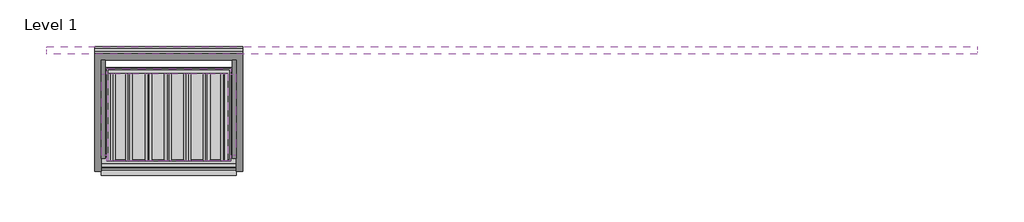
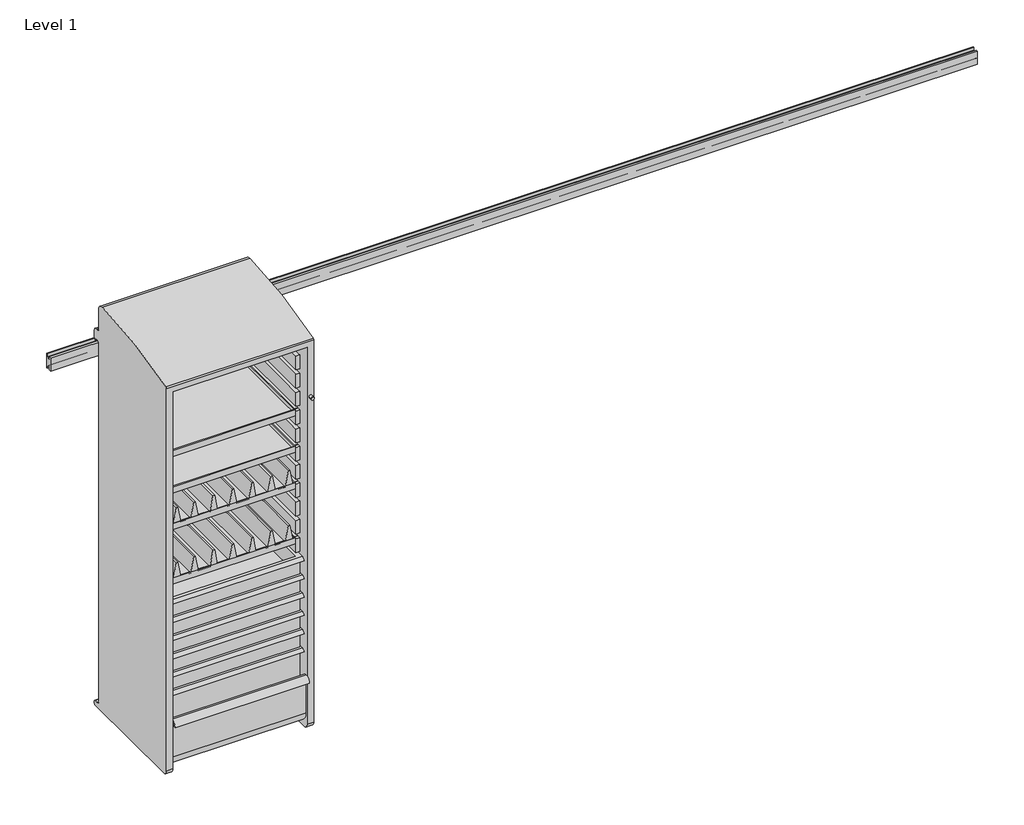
# One storey: 15 furniture elements.
"""IFC4 building model written with IfcOpenShell, lengths in millimetres."""

from ifc_helpers import new_model, si_unit, origin, place, context, project, spatial, transform, mapped, element, save
from components import furniture_ac9ddba1, furniture_597c964e, furniture_e54e6dd1, furniture_2a79b59b, furniture_6e313942, furniture_9b68d01d, furniture_820d7327, a_3_05a797c7, a_3_65d9b637, a_3_f00946d5, a_3_ebba6047, a_3_03b68bd4, b_6_b5d62f69, b_6_de3e8c4b, standard_144w_a9847ba4

model = new_model("IFC4")

# Units and contexts
model_context = context("Model", 3, world=origin())
ifc_project = project(units=[si_unit("LENGTHUNIT", "METRE", prefix="MILLI")], contexts=[model_context])

# Site, building, storey
site = spatial("IfcSite", under=ifc_project)
building = spatial("IfcBuilding", under=site)
storey = spatial("IfcBuildingStorey", under=building, Name="Level 1", Elevation=0.0)

# Furniture
placement = place(None, origin())
furniture_shape = furniture_ac9ddba1(model_context)
element("IfcFurniture", 1, ObjectType="HermanMiller_CoStruc_CO561_LockerWithTambourDoor : 66\"H x 20\"D x 22\"W Wlock", at=placement, inside=storey, context=model_context, shape_type="MappedRepresentation", body=[
    mapped(furniture_shape, transform((480.0352288, -244.9335711, 0.0), x_axis=(1.0, 0.0, 0.0), y_axis=(0.0, 1.0, 0.0), z_axis=(0.0, 0.0, 1.0))),
])
furniture_2_shape = furniture_597c964e(model_context)
element("IfcFurniture", 2, ObjectType="HermanMiller_CoStruc_CO203_CTrayShelf : 14\"D x 20\"W", at=placement, inside=storey, context=model_context, shape_type="MappedRepresentation", body=[
    mapped(furniture_2_shape, transform((480.0911088, -268.0170911, 0.0), x_axis=(1.0, 0.0, 0.0), y_axis=(0.0, 1.0, 0.0), z_axis=(0.0, 0.0, 1.0))),
])
furniture_3_shape = furniture_e54e6dd1(model_context)
element("IfcFurniture", 3, ObjectType="HermanMiller_CoStruc_CO203_CTrayShelf : 14\"D x 20\"W", at=placement, inside=storey, context=model_context, shape_type="MappedRepresentation", body=[
    mapped(furniture_3_shape, transform((480.0911088, -268.0170911, 0.0), x_axis=(1.0, 0.0, 0.0), y_axis=(0.0, 1.0, 0.0), z_axis=(0.0, 0.0, 1.0))),
])
furniture_4_shape = furniture_2a79b59b(model_context)
element("IfcFurniture", 4, ObjectType="HermanMiller_CoStruc_CO203_CTrayShelf : 14\"D x 20\"W", at=placement, inside=storey, context=model_context, shape_type="MappedRepresentation", body=[
    mapped(furniture_4_shape, transform((480.0911088, -268.0170911, 0.0), x_axis=(1.0, 0.0, 0.0), y_axis=(0.0, 1.0, 0.0), z_axis=(0.0, 0.0, 1.0))),
])
furniture_5_shape = furniture_6e313942(model_context)
element("IfcFurniture", 5, ObjectType="HermanMiller_CoStruc_CO203_CTrayShelf : 14\"D x 20\"W", at=placement, inside=storey, context=model_context, shape_type="MappedRepresentation", body=[
    mapped(furniture_5_shape, transform((480.0911088, -268.0170911, 0.0), x_axis=(1.0, 0.0, 0.0), y_axis=(0.0, 1.0, 0.0), z_axis=(0.0, 0.0, 1.0))),
])
furniture_6_shape = furniture_9b68d01d(model_context)
element("IfcFurniture", 6, ObjectType="HermanMiller_CoStruc_CO242_Subdivider Vane : 2 5/8\"Hx13 3/4\"D x 18 1/2\"W", at=placement, inside=storey, context=model_context, shape_type="MappedRepresentation", body=[
    mapped(furniture_6_shape, transform((476.6201604, -277.1610911, 0.0), x_axis=(1.0, 0.0, 0.0), y_axis=(0.0, 1.0, 0.0), z_axis=(0.0, 0.0, 1.0))),
])
furniture_7_shape = furniture_820d7327(model_context)
element("IfcFurniture", 7, ObjectType="HermanMiller_CoStruc_CO242_Subdivider Vane : 2 5/8\"Hx13 3/4\"D x 18 1/2\"W", at=placement, inside=storey, context=model_context, shape_type="MappedRepresentation", body=[
    mapped(furniture_7_shape, transform((476.6201604, -277.1610911, 0.0), x_axis=(1.0, 0.0, 0.0), y_axis=(0.0, 1.0, 0.0), z_axis=(0.0, 0.0, 1.0))),
])
a_3_shape = a_3_05a797c7(model_context)
element("IfcFurniture", 8, ObjectType="HermanMiller_CoStruc_CO207_Drawer : A - 3", at=placement, inside=storey, context=model_context, shape_type="MappedRepresentation", body=[
    mapped(a_3_shape, transform((480.0239453, -277.5167426, 0.0), x_axis=(1.0, 0.0, 0.0), y_axis=(0.0, 1.0, 0.0), z_axis=(0.0, 0.0, 1.0))),
])
a_3_2_shape = a_3_65d9b637(model_context)
element("IfcFurniture", 9, ObjectType="HermanMiller_CoStruc_CO207_Drawer : A - 3", at=placement, inside=storey, context=model_context, shape_type="MappedRepresentation", body=[
    mapped(a_3_2_shape, transform((480.0239453, -277.5167426, 0.0), x_axis=(1.0, 0.0, 0.0), y_axis=(0.0, 1.0, 0.0), z_axis=(0.0, 0.0, 1.0))),
])
a_3_3_shape = a_3_f00946d5(model_context)
element("IfcFurniture", 10, ObjectType="HermanMiller_CoStruc_CO207_Drawer : A - 3", at=placement, inside=storey, context=model_context, shape_type="MappedRepresentation", body=[
    mapped(a_3_3_shape, transform((480.0239453, -277.5167426, 0.0), x_axis=(1.0, 0.0, 0.0), y_axis=(0.0, 1.0, 0.0), z_axis=(0.0, 0.0, 1.0))),
])
a_3_4_shape = a_3_ebba6047(model_context)
element("IfcFurniture", 11, ObjectType="HermanMiller_CoStruc_CO207_Drawer : A - 3", at=placement, inside=storey, context=model_context, shape_type="MappedRepresentation", body=[
    mapped(a_3_4_shape, transform((480.0239453, -277.5167426, 0.0), x_axis=(1.0, 0.0, 0.0), y_axis=(0.0, 1.0, 0.0), z_axis=(0.0, 0.0, 1.0))),
])
a_3_5_shape = a_3_03b68bd4(model_context)
element("IfcFurniture", 12, ObjectType="HermanMiller_CoStruc_CO207_Drawer : A - 3", at=placement, inside=storey, context=model_context, shape_type="MappedRepresentation", body=[
    mapped(a_3_5_shape, transform((480.0239453, -277.5167426, 0.0), x_axis=(1.0, 0.0, 0.0), y_axis=(0.0, 1.0, 0.0), z_axis=(0.0, 0.0, 1.0))),
])
b_6_shape = b_6_b5d62f69(model_context)
element("IfcFurniture", 13, ObjectType="HermanMiller_CoStruc_CO207_Drawer : B - 6", at=placement, inside=storey, context=model_context, shape_type="MappedRepresentation", body=[
    mapped(b_6_shape, transform((480.0239453, -277.5167426, 0.0), x_axis=(1.0, 0.0, 0.0), y_axis=(0.0, 1.0, 0.0), z_axis=(0.0, 0.0, 1.0))),
])
b_6_2_shape = b_6_de3e8c4b(model_context)
element("IfcFurniture", 14, ObjectType="HermanMiller_CoStruc_CO207_Drawer : B - 6", at=placement, inside=storey, context=model_context, shape_type="MappedRepresentation", body=[
    mapped(b_6_2_shape, transform((480.0239453, -277.5167426, 0.0), x_axis=(1.0, 0.0, 0.0), y_axis=(0.0, 1.0, 0.0), z_axis=(0.0, 0.0, 1.0))),
])
standard_144w_shape = standard_144w_a9847ba4(model_context)
element("IfcFurniture", 15, ObjectType="HermanMiller_CoStruc_CO282_StandardRail : Standard 144W", at=placement, inside=storey, context=model_context, shape_type="MappedRepresentation", body=[
    mapped(standard_144w_shape, transform((1896.1205525, 0.0, 0.0), x_axis=(1.0, 0.0, 0.0), y_axis=(0.0, 1.0, 0.0), z_axis=(0.0, 0.0, 1.0))),
])

save(model, "model.ifc")
